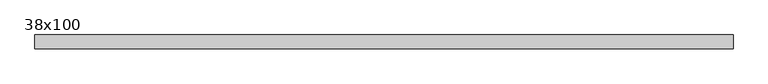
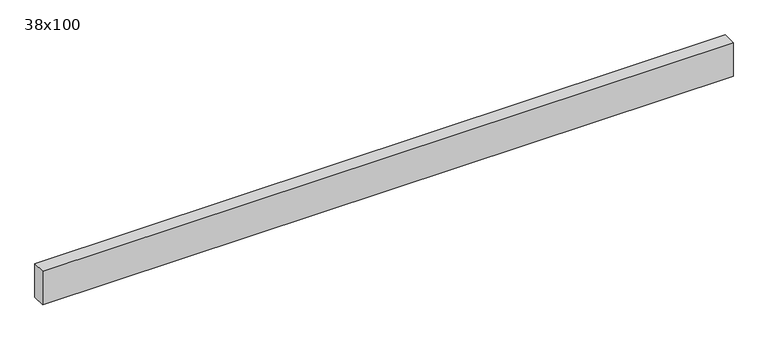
"""IFC4 building model written with IfcOpenShell, lengths in millimetres: beam geometry, Poutre - Bois de construction de dimensions courantes : 38x100."""

import ifcopenshell
import ifcopenshell.guid

model = None  # the IFC model being written
_history = None  # IfcOwnerHistory: only IFC2X3 demands one
_inside = {}  # id of a spatial element -> (the spatial element, [elements in it])
_under = {}  # id of a project, library or spatial element -> (it, [spatial elements below it])
_declared = {}  # id of a project -> (the project, [libraries it declares])
_typed = {}  # id of a type object -> (the type object, [elements of that type])
_made_of = {}  # id of a material, layer set ... -> (it, [elements and type objects made of it])


def new_model(schema):
    """Start an empty IFC model of exactly this schema.

    Asked for "IFC4X3", IfcOpenShell would pick the latest addendum, in which some entities
    have other attributes; the version numbers below select the first issue.
    IFC2X3 requires an IfcOwnerHistory on every rooted entity: one is made here for all.
    """
    global model, _history
    if schema == "IFC4X3":
        model = ifcopenshell.file(schema_version=(4, 3, 0, 0))
    else:
        model = ifcopenshell.file(schema=schema)
    _inside.clear()
    _under.clear()
    _declared.clear()
    _typed.clear()
    _made_of.clear()
    _history = None
    if model.schema == "IFC2X3":
        org = make("IfcOrganization", Name="unknown")
        user = make(
            "IfcPersonAndOrganization",
            ThePerson=make("IfcPerson", FamilyName="unknown"),
            TheOrganization=org,
        )
        app = make(
            "IfcApplication",
            ApplicationDeveloper=org,
            Version="unknown",
            ApplicationFullName="unknown",
            ApplicationIdentifier="unknown",
        )
        _history = make(
            "IfcOwnerHistory",
            OwningUser=user,
            OwningApplication=app,
            ChangeAction="ADDED",
            CreationDate=0,
        )
    return model


def make(cls, **values):
    """One entity of the class cls with the attributes given. An attribute that is None is left unset."""
    return model.create_entity(
        cls, **{name: value for name, value in values.items() if value is not None}
    )


def rooted(cls, **values):
    """An entity with a GlobalId (a new one), such as an element, a storey or a relation."""
    return make(cls, GlobalId=ifcopenshell.guid.new(), OwnerHistory=_history, **values)


def si_unit(unit_type, name, prefix=None):
    """IfcSIUnit, for example si_unit("LENGTHUNIT", "METRE", prefix="MILLI")."""
    return make("IfcSIUnit", UnitType=unit_type, Prefix=prefix, Name=name)


def assignment(units):
    """IfcUnitAssignment: the units of a project."""
    return None if units is None else make("IfcUnitAssignment", Units=units)


def point(xyz):
    """IfcCartesianPoint."""
    return None if xyz is None else make("IfcCartesianPoint", Coordinates=xyz)


def direction(xyz):
    """IfcDirection."""
    return None if xyz is None else make("IfcDirection", DirectionRatios=xyz)


def frame(location, z_axis=None, x_axis=None):
    """IfcAxis2Placement3D, a coordinate frame: its origin and axes. An axis left out is left unset."""
    return make(
        "IfcAxis2Placement3D",
        Location=point(location),
        Axis=direction(z_axis),
        RefDirection=direction(x_axis),
    )


def origin():
    """The frame at (0, 0, 0) with its axes left unset."""
    return frame((0.0, 0.0, 0.0))


def place(relative_to, where):
    """IfcLocalPlacement: puts the frame where relative to a parent placement (None: the world)."""
    return make(
        "IfcLocalPlacement", PlacementRelTo=relative_to, RelativePlacement=where
    )


def context(
    kind, dimensions, precision=None, world=None, true_north=None, identifier=None
):
    """IfcGeometricRepresentationContext, for example the 3D "Model" context."""
    return make(
        "IfcGeometricRepresentationContext",
        ContextIdentifier=identifier,
        ContextType=kind,
        CoordinateSpaceDimension=dimensions,
        Precision=precision,
        WorldCoordinateSystem=world,
        TrueNorth=true_north,
    )


def project(units=None, contexts=None):
    """IfcProject with its units and contexts."""
    return rooted(
        "IfcProject",
        Name="project",
        RepresentationContexts=contexts,
        UnitsInContext=assignment(units),
    )


def spatial(cls, under=None, at=None, **own):
    """A site, building, storey or space (cls), placed at a placement, below another one or the project."""
    s = rooted(cls, ObjectPlacement=at, **own)
    if under is not None:
        _under.setdefault(under.id(), (under, []))[1].append(s)
    return s


def polyline(points):
    """IfcPolyline through the points."""
    return make("IfcPolyline", Points=[point(p) for p in points])


def outline(outer, holes=None, kind="AREA"):
    """IfcArbitraryClosedProfileDef: a profile drawn as a closed curve; with holes, ...WithVoids."""
    if holes is None:
        return make("IfcArbitraryClosedProfileDef", ProfileType=kind, OuterCurve=outer)
    return make(
        "IfcArbitraryProfileDefWithVoids",
        ProfileType=kind,
        OuterCurve=outer,
        InnerCurves=holes,
    )


def extrude(swept, where, along, depth):
    """IfcExtrudedAreaSolid: the profile swept, set in the frame where, extruded along a direction by depth."""
    return make(
        "IfcExtrudedAreaSolid",
        SweptArea=swept,
        Position=where,
        ExtrudedDirection=direction(along),
        Depth=depth,
    )


def shape(context_of_items, identifier, shape_type, items):
    """IfcShapeRepresentation: the items that make up one representation, for example the "Body"."""
    return make(
        "IfcShapeRepresentation",
        ContextOfItems=context_of_items,
        RepresentationIdentifier=identifier,
        RepresentationType=shape_type,
        Items=items,
    )


def source(mapping_origin, context_of_items, identifier, shape_type, items):
    """IfcRepresentationMap: a shape defined once, which mapped items show again and again."""
    return make(
        "IfcRepresentationMap",
        MappingOrigin=mapping_origin,
        MappedRepresentation=shape(context_of_items, identifier, shape_type, items),
    )


def transform(
    local_origin,
    x_axis=None,
    y_axis=None,
    z_axis=None,
    scale=None,
    scale2=None,
    scale3=None,
    uniform=True,
):
    """IfcCartesianTransformationOperator3D, or its non-uniform kind. x_axis, y_axis, z_axis: its Axis1, 2, 3."""
    if uniform:
        return make(
            "IfcCartesianTransformationOperator3D",
            Axis1=direction(x_axis),
            Axis2=direction(y_axis),
            LocalOrigin=point(local_origin),
            Scale=scale,
            Axis3=direction(z_axis),
        )
    return make(
        "IfcCartesianTransformationOperator3DnonUniform",
        Axis1=direction(x_axis),
        Axis2=direction(y_axis),
        LocalOrigin=point(local_origin),
        Scale=scale,
        Axis3=direction(z_axis),
        Scale2=scale2,
        Scale3=scale3,
    )


def mapped(mapping_source, mapping_target):
    """IfcMappedItem: shows the shape of a source again, moved by a transform."""
    return make(
        "IfcMappedItem", MappingSource=mapping_source, MappingTarget=mapping_target
    )


def made_of(thing, what):
    """Note that an element or type object is made of a material, layer set ...; save() writes the relation."""
    if what is not None:
        _made_of.setdefault(what.id(), (what, []))[1].append(thing)
    return thing


def element(
    cls,
    number,
    at=None,
    inside=None,
    cuts=None,
    type_object=None,
    material=None,
    context=None,
    identifier="Body",
    shape_type=None,
    held_by="IfcProductDefinitionShape",
    body=None,
    shapes=None,
    **own,
):
    """One element of the class cls, such as IfcWall. Its Tag is "e" and its number.

    at: its placement. inside: the storey or other place that contains it. cuts: it is an
    opening in that element (IfcRelVoidsElement). A single representation is given by context,
    identifier, shape_type and body (its items); several are given by shapes. held_by: the class
    of the entity that holds the representations. save() writes the other relations.
    """
    e = rooted(cls, Tag="e%d" % number, ObjectPlacement=at, **own)
    if body is not None:
        shapes = [shape(context, identifier, shape_type, body)]
    if shapes is not None:
        e.Representation = make(held_by, Representations=shapes)
    if inside is not None:
        _inside.setdefault(inside.id(), (inside, []))[1].append(e)
    if cuts is not None:
        rooted(
            "IfcRelVoidsElement", RelatingBuildingElement=cuts, RelatedOpeningElement=e
        )
    if type_object is not None:
        _typed.setdefault(type_object.id(), (type_object, []))[1].append(e)
    return made_of(e, material)


def aggregate(whole, parts):
    """IfcRelAggregates: a whole, such as a stair, and the parts it consists of."""
    return rooted("IfcRelAggregates", RelatingObject=whole, RelatedObjects=parts)


def save(model, path):
    """Write the relations noted so far, then the file.

    IfcRelAggregates (storeys below a building ...), IfcRelContainedInSpatialStructure (elements
    in a storey), IfcRelDefinesByType, IfcRelAssociatesMaterial and IfcRelDeclares: one each for
    every whole, place, type object, material and project.
    """
    for whole, parts in _under.values():
        aggregate(whole, parts)
    for where, things in _inside.values():
        rooted(
            "IfcRelContainedInSpatialStructure",
            RelatedElements=things,
            RelatingStructure=where,
        )
    for kind, things in _typed.values():
        rooted("IfcRelDefinesByType", RelatedObjects=things, RelatingType=kind)
    for what, things in _made_of.values():
        rooted("IfcRelAssociatesMaterial", RelatedObjects=things, RelatingMaterial=what)
    for by, libraries in _declared.values():
        rooted("IfcRelDeclares", RelatingContext=by, RelatedDefinitions=libraries)
    model.write(path)


def beam_38x100_ccd67e9b(model_context):
    return source(origin(), model_context, "Body", "SweptSolid", [
        extrude(outline(polyline([(992.5, 19.05), (992.5, -19.05), (-948.5, -19.05), (-948.5, 19.05), (992.5, 19.05)])), frame((0.0, 0.0, -50.0), z_axis=(0.0, 0.0, 1.0), x_axis=(1.0, 0.0, 0.0)), (0.0, 0.0, 1.0), 100.0),
    ])


if __name__ == "__main__":
    model = new_model("IFC4")
    model_context = context("Model", 3, world=origin())
    ifc_project = project(units=[si_unit("LENGTHUNIT", "METRE", prefix="MILLI")], contexts=[model_context])
    site = spatial("IfcSite", under=ifc_project)
    building = spatial("IfcBuilding", under=site)
    placement = place(None, origin())
    beam_38x100_shape = beam_38x100_ccd67e9b(model_context)
    element("IfcBeam", 1, ObjectType="Poutre - Bois de construction de dimensions courantes : 38x100", at=placement, inside=building, context=model_context, shape_type="MappedRepresentation", body=[
        mapped(beam_38x100_shape, transform((0.0, 0.0, 0.0), x_axis=(1.0, 0.0, 0.0), y_axis=(0.0, 1.0, 0.0), z_axis=(0.0, 0.0, 1.0))),
    ])
    save(model, "model.ifc")
